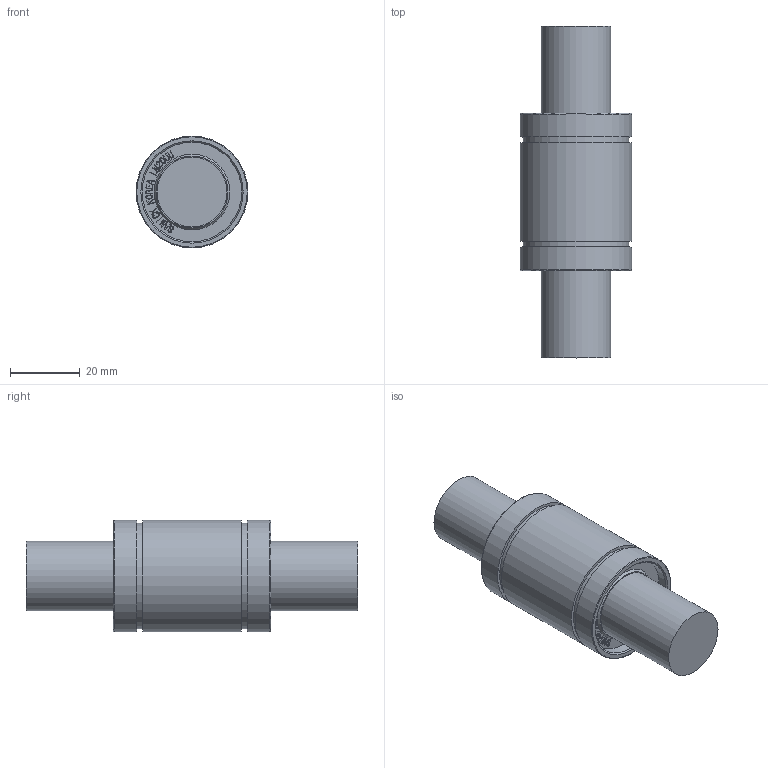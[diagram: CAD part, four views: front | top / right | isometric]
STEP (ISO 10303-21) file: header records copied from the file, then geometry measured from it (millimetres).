
FILE_DESCRIPTION(/* description */ (''),/* implementation_level */ '2;1');
FILE_NAME(/* name */ 'W:\(01) 2024년 홈페이지 CAD파일 최신화\LME\IPT\LME20UU.stp',/* time_stamp */ '2025-01-25T08:56:07+09:00',/* author */ ('서우현'),/* organization */ (''),/* preprocessor_version */ 'ST-DEVELOPER v17.2',/* originating_system */ 'Autodesk Inventor 2019',/* authorisation */ '');
FILE_SCHEMA (('AUTOMOTIVE_DESIGN { 1 0 10303 214 3 1 1 }'));
Length unit declared in the file: millimetre
Products named in the file (1): LM5
Bounding box: 32 x 95 x 32 mm (x, y, z)
Volume: 49631 mm3; surface area: 10480.2 mm2
Topology: 1 solids, 1 shells, 833 faces, 2353 edges, 1576 vertices
Faces by surface type: bspline 592, plane 226, cylinder 9, cone 4, torus 2
Full cylindrical faces by diameter (mm): 20 x2, 28.5 x2, 30.3 x2, 32 x3
Entity records: 28487 total; most frequent: CARTESIAN_POINT 10091, ORIENTED_EDGE 4706, EDGE_CURVE 2353, DIRECTION 1707, VERTEX_POINT 1576, B_SPLINE_CURVE_WITH_KNOTS 1184, LINE 1115, VECTOR 1115
